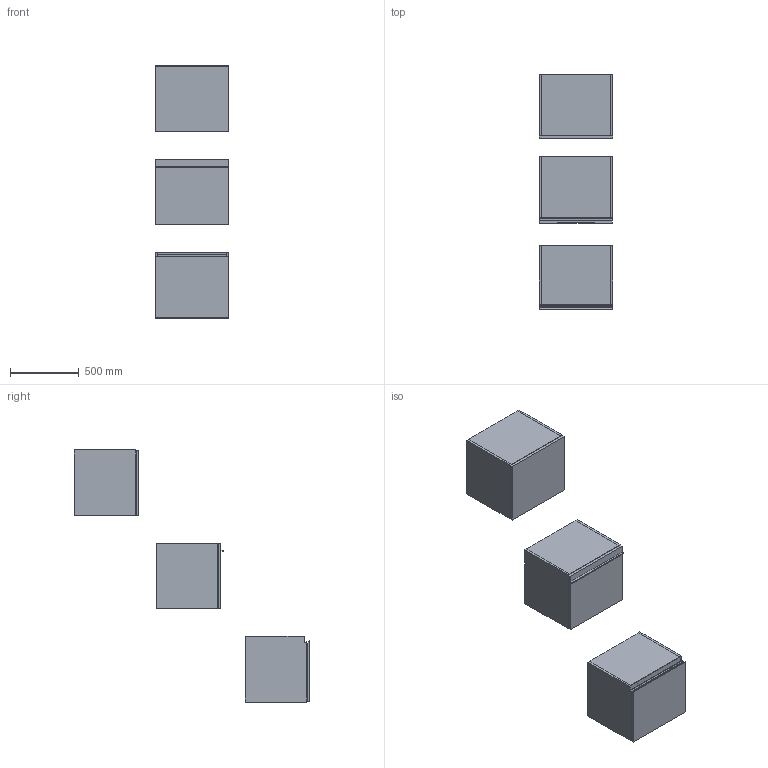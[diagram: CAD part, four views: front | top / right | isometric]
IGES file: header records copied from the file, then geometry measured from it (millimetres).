
Start section: Data from Parasolid IGES Translator 19.0.9, Copyright(c) 2006 Siemens PL M Software. All Rights Reserved.
Global section: file name: noorth-SI-H 48 D 47 W 54_8504.igs; native system: By Siemens PLM Incorporated; preprocessor: XPlus GENERIC/IGES 19.0.9; author: Noname; organization: Noname; date: 20200601.111127; units: metre
Bounding box: 540.01 x 1719.1 x 1840 mm (x, y, z)
Volume: 58746234.2 mm3; surface area: 8757014.1 mm2
Topology: 20 solids, 20 shells, 178 faces, 382 edges, 234 vertices
Faces by surface type: plane 134, extrusion 16, bspline 16, cylinder 12
